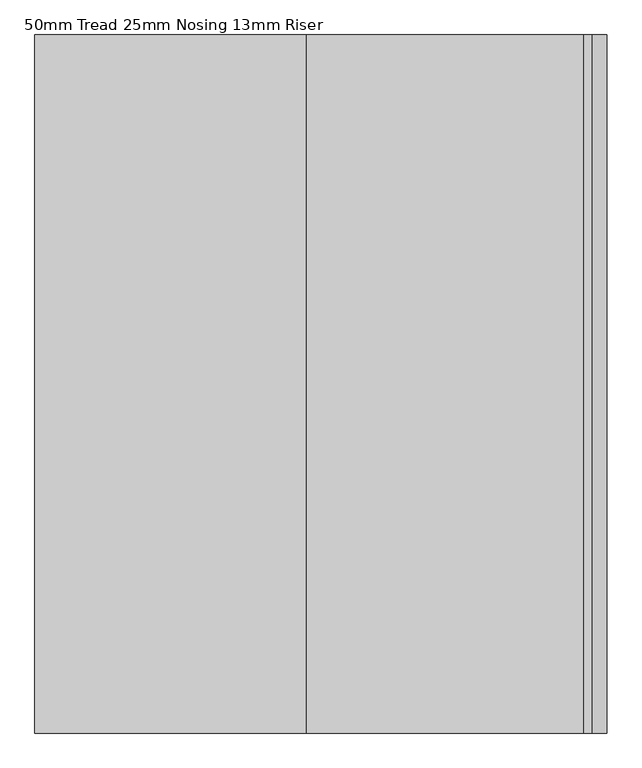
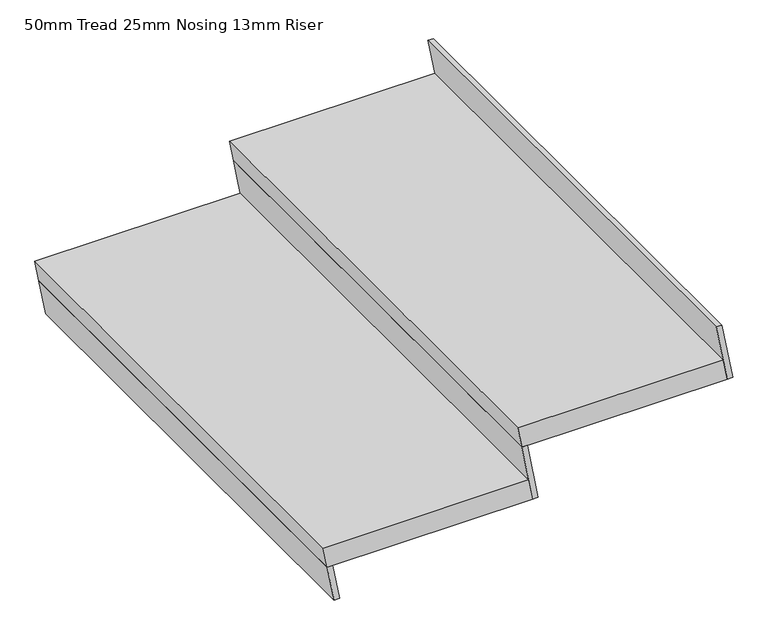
"""IFC4 building model written with IfcOpenShell, lengths in millimetres: stair flight geometry, 50mm Tread 25mm Nosing 13mm Riser."""

from ifc_helpers import new_model, si_unit, frame, origin, place, context, project, spatial, polyline, outline, extrude, source, transform, mapped, element, save


def stair_flight_50mm_tread_25mm_nosing_13mm_riser_681defaa(model_context):
    return source(origin(), model_context, "Body", "SweptSolid", [
        extrude(outline(polyline([(-270.9333333, 2942.825), (-270.9333333, 2470.15), (-320.9333333, 2479.3773622), (-320.9333333, 2952.0523622), (-270.9333333, 2942.825)])), frame((0.0, -5835.65, 0.0), z_axis=(0.0, 1.0, 0.0), x_axis=(0.0, 0.0, 1.0)), (0.0, 0.0, 1.0), 1149.35),
        extrude(outline(polyline([(-320.9333333, 2479.3773622), (-406.4, 2495.15), (-406.4, 2507.8610784), (-320.9333333, 2492.0884406), (-320.9333333, 2479.3773622)])), frame((0.0, -5835.65, 0.0), z_axis=(0.0, 1.0, 0.0), x_axis=(0.0, 0.0, 1.0)), (0.0, 0.0, 1.0), 1149.35),
        extrude(outline(polyline([(-185.4666667, 2927.0523622), (-320.9333333, 2952.0523622), (-320.9333333, 2964.7634406), (-185.4666667, 2939.7634406), (-185.4666667, 2927.0523622)])), frame((0.0, -5835.65, 0.0), z_axis=(0.0, 1.0, 0.0), x_axis=(0.0, 0.0, 1.0)), (0.0, 0.0, 1.0), 1149.35),
        extrude(outline(polyline([(-50.0, 3374.7273622), (-185.4666667, 3399.7273622), (-185.4666667, 3412.4384406), (-50.0, 3387.4384406), (-50.0, 3374.7273622)])), frame((0.0, -5835.65, 0.0), z_axis=(0.0, 1.0, 0.0), x_axis=(0.0, 0.0, 1.0)), (0.0, 0.0, 1.0), 1149.35),
        extrude(outline(polyline([(-135.4666667, 3390.5), (-135.4666667, 2917.825), (-185.4666667, 2927.0523622), (-185.4666667, 3399.7273622), (-135.4666667, 3390.5)])), frame((0.0, -5835.65, 0.0), z_axis=(0.0, 1.0, 0.0), x_axis=(0.0, 0.0, 1.0)), (0.0, 0.0, 1.0), 1149.35),
    ])


if __name__ == "__main__":
    model = new_model("IFC4")
    model_context = context("Model", 3, world=origin())
    ifc_project = project(units=[si_unit("LENGTHUNIT", "METRE", prefix="MILLI")], contexts=[model_context])
    site = spatial("IfcSite", under=ifc_project)
    building = spatial("IfcBuilding", under=site)
    placement = place(None, origin())
    stair_flight_50mm_tread_25mm_nosing_13mm_riser_shape = stair_flight_50mm_tread_25mm_nosing_13mm_riser_681defaa(model_context)
    element("IfcStairFlight", 1, ObjectType="50mm Tread 25mm Nosing 13mm Riser", at=placement, inside=building, context=model_context, shape_type="MappedRepresentation", body=[
        mapped(stair_flight_50mm_tread_25mm_nosing_13mm_riser_shape, transform((0.0, 0.0, 0.0), x_axis=(1.0, 0.0, 0.0), y_axis=(0.0, 1.0, 0.0), z_axis=(0.0, 0.0, 1.0))),
    ])
    save(model, "model.ifc")
